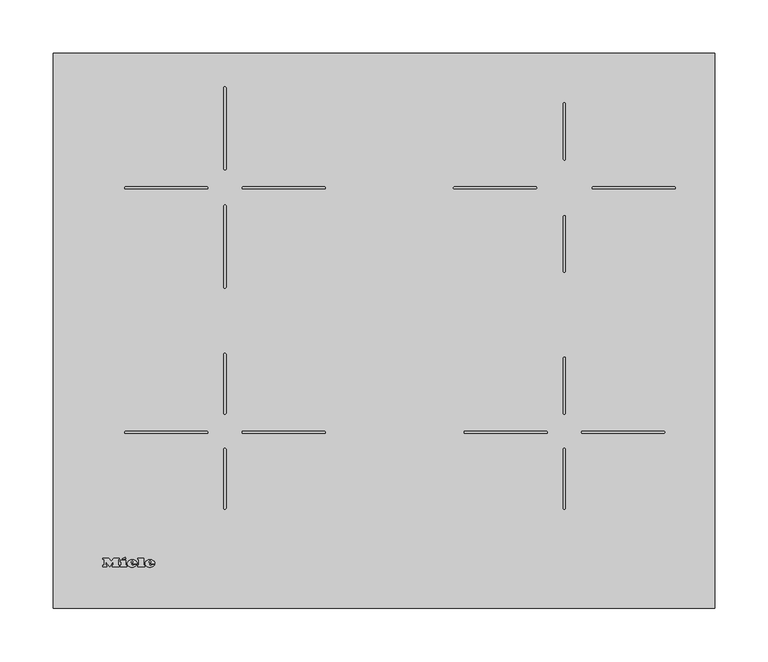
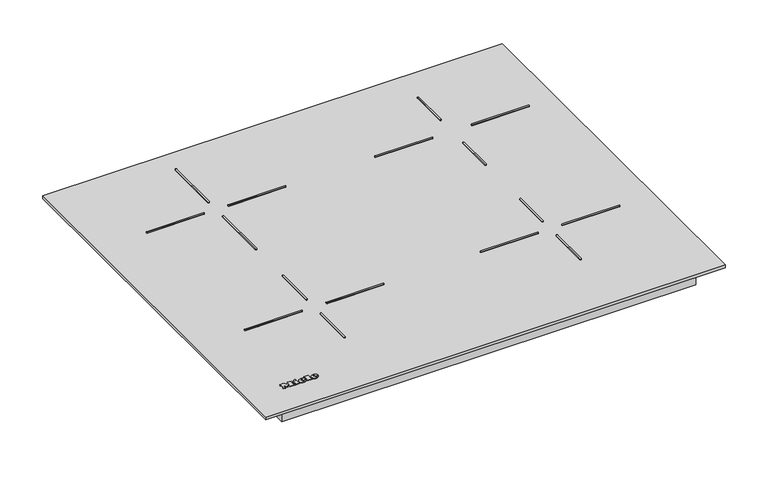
"""IFC4 building model written with IfcOpenShell, lengths in millimetres: proxy geometry, 12529440_KZ_KM7361FL : 26736170_KZ_12529440_KM7361FL."""

from ifc_helpers import new_model, si_unit, point, frame, frame_2d, origin, origin_with_axes, place, context, project, spatial, polyline, circle_curve, ellipse_curve, trimmed, segment, composite_curve, outline, extrude, source, transform, mapped, element, save
from ifc_brep_helpers import plane_surface, cylinder_surface, revolved_surface, extruded_surface, advanced_brep


def specialty_equipment_58978d6d(model_context):
    return source(origin(), model_context, "Body", "SolidModel", [
        advanced_brep(
        [(-219.911984, 41.066, 5.0000007), (-219.911984, 41.874, 5.0000007), (-214.559984, 41.874, 5.0000007), (-223.871984, 41.874, 5.0000007), (-221.671984, 39.17, 5.0000007), (-214.695984, 41.066, 5.0000007), (-217.111984, 41.066, 5.0000007), (-219.015984, 40.17, 5.0000007), (-219.911984, 42.898, 5.0000007), (-219.911984, 43.77, 5.0000007), (-218.543984, 43.77, 5.0000007), (-218.543984, 42.898, 5.0000007), (-219.911984, 41.066, 4.0000007), (-219.015984, 40.17, 4.0000007), (-217.111984, 41.066, 4.0000007), (-214.695984, 41.066, 4.0000007), (-221.671984, 39.17, 4.0000007), (-223.871984, 41.874, 4.0000007), (-214.559984, 41.874, 4.0000007), (-219.911984, 41.874, 4.0000007), (-219.911984, 42.898, 4.0000007), (-218.543984, 42.898, 4.0000007), (-218.543984, 43.77, 4.0000007), (-219.911984, 43.77, 4.0000007)],
        [
            (0, 1),
            (1, 2),
            (2, 3, ellipse_curve(frame((-219.215984, 41.874, 5.0000007), z_axis=(0.0, 0.0, 1.0), x_axis=(-1.0, 0.0, 0.0)), 4.656, 3.848)),
            (3, 4, circle_curve(frame((-220.7759404, 42.146, 5.0000007), z_axis=(0.0, 0.0, 1.0), x_axis=(0.0, -1.0, 0.0)), 3.1079688)),
            (4, 5, circle_curve(frame((-219.3091904, 44.258, 5.0000007), z_axis=(0.0, 0.0, 1.0), x_axis=(0.0, -1.0, 0.0)), 5.6098607)),
            (5, 6),
            (6, 7, circle_curve(frame((-218.6249252, 41.81, 5.0000007), z_axis=(0.0, 0.0, -1.0), x_axis=(0.0, -1.0, 0.0)), 1.6859795)),
            (7, 0, circle_curve(frame((-219.015984, 41.066, 5.0000007), z_axis=(0.0, 0.0, -1.0), x_axis=(0.0, -1.0, 0.0)), 0.896)),
            (8, 9),
            (9, 10, circle_curve(frame((-219.227984, 43.77, 5.0000007), z_axis=(0.0, 0.0, -1.0), x_axis=(0.0, -1.0, 0.0)), 0.684)),
            (10, 11),
            (11, 8),
            (12, 13, circle_curve(frame((-219.015984, 41.066, 4.0000007), z_axis=(0.0, 0.0, 1.0), x_axis=(0.0, -1.0, 0.0)), 0.896)),
            (13, 14, circle_curve(frame((-218.6249252, 41.81, 4.0000007), z_axis=(0.0, 0.0, 1.0), x_axis=(0.0, -1.0, 0.0)), 1.6859795)),
            (14, 15),
            (15, 16, circle_curve(frame((-219.3091904, 44.258, 4.0000007), z_axis=(0.0, 0.0, -1.0), x_axis=(0.0, -1.0, 0.0)), 5.6098607)),
            (16, 17, circle_curve(frame((-220.7759404, 42.146, 4.0000007), z_axis=(0.0, 0.0, -1.0), x_axis=(0.0, -1.0, 0.0)), 3.1079688)),
            (17, 18, ellipse_curve(frame((-219.215984, 41.874, 4.0000007), z_axis=(0.0, 0.0, -1.0), x_axis=(-1.0, 0.0, 0.0)), 4.656, 3.848)),
            (18, 19),
            (19, 12),
            (20, 21),
            (21, 22),
            (22, 23, circle_curve(frame((-219.227984, 43.77, 4.0000007), z_axis=(0.0, 0.0, 1.0), x_axis=(0.0, -1.0, 0.0)), 0.684)),
            (23, 20),
            (0, 12),
            (19, 1),
            (18, 2),
            (5, 15),
            (14, 6),
            (17, 3),
            (13, 7),
            (16, 4),
            (8, 20),
            (23, 9),
            (22, 10),
            (21, 11),
        ],
        [
            plane_surface(frame((-219.911984, 41.874, 5.0000007), z_axis=(0.0, 0.0, 1.0), x_axis=(0.0, 1.0, 0.0))),
            plane_surface(frame((-219.911984, 41.874, 4.0000007), z_axis=(0.0, 0.0, -1.0), x_axis=(0.0, -1.0, 0.0))),
            plane_surface(frame((-219.911984, 41.066, 5.0000007), z_axis=(1.0, 0.0, 0.0), x_axis=(0.0, 0.0, -1.0))),
            plane_surface(frame((-219.911984, 41.874, 5.0000007), z_axis=(0.0, -1.0, 0.0), x_axis=(0.0, 0.0, -1.0))),
            plane_surface(frame((-214.695984, 41.066, 5.0000007), z_axis=(0.0, 1.0, 0.0), x_axis=(0.0, 0.0, -1.0))),
            extruded_surface(trimmed(ellipse_curve(frame((-219.215984, 41.874, 3.0000007), z_axis=(0.0, 0.0, 1.0), x_axis=(-1.0, 0.0, 0.0)), 4.656, 3.848), [point((-214.559984, 41.874, 3.0000007))], [point((-223.871984, 41.874, 3.0000007))], True, "CARTESIAN"), (0.0, 0.0, 1.0), 1.0),
            revolved_surface(polyline([(-218.6249252, 40.1240205, 4.0000007), (-218.6249252, 40.1240205, 5.0000007)]), (-218.6249252, 41.81, 4.0000007), (0.0, 0.0, -1.0)),
            revolved_surface(polyline([(-219.015984, 40.17, 4.0000007), (-219.015984, 40.17, 5.0000007)]), (-219.015984, 41.066, 4.0000007), (0.0, 0.0, -1.0)),
            cylinder_surface(frame((-220.7759404, 42.146, 4.0000007), z_axis=(0.0, 0.0, 1.0), x_axis=(0.0, -1.0, 0.0)), 3.1079688),
            cylinder_surface(frame((-219.3091904, 44.258, 4.0000007), z_axis=(0.0, 0.0, 1.0), x_axis=(0.0, -1.0, 0.0)), 5.6098607),
            plane_surface(frame((-219.911984, 42.898, 5.0000007), z_axis=(1.0, 0.0, 0.0), x_axis=(0.0, 0.0, -1.0))),
            revolved_surface(polyline([(-219.227984, 43.086000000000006, 4.0000007), (-219.227984, 43.086000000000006, 5.0000007)]), (-219.227984, 43.77, 4.0000007), (0.0, 0.0, -1.0)),
            plane_surface(frame((-218.543984, 43.77, 5.0000007), z_axis=(-1.0, 0.0, 0.0), x_axis=(0.0, 0.0, -1.0))),
            plane_surface(frame((-218.543984, 42.898, 5.0000007), z_axis=(0.0, 1.0, 0.0), x_axis=(0.0, 0.0, -1.0))),
        ],
        [
            (0, [[1, 2, 3, 4, 5, 6, 7, 8], [9, 10, 11, 12]]),
            (1, [[13, 14, 15, 16, 17, 18, 19, 20], [21, 22, 23, 24]]),
            (2, [[-1, 25, -20, 26]]),
            (3, [[-2, -26, -19, 27]]),
            (4, [[-6, 28, -15, 29]]),
            (5, [[-3, -27, -18, 30]]),
            (6, [[-7, -29, -14, 31]]),
            (7, [[-8, -31, -13, -25]]),
            (8, [[-4, -30, -17, 32]]),
            (9, [[-5, -32, -16, -28]]),
            (10, [[-9, 33, -24, 34]]),
            (11, [[-10, -34, -23, 35]]),
            (12, [[-11, -35, -22, 36]]),
            (13, [[-12, -36, -21, -33]]),
        ],
    ),
        advanced_brep(
        [(-236.607984, 41.066, 5.0000007), (-236.607984, 41.874, 5.0000007), (-231.255984, 41.874, 5.0000007), (-240.567984, 41.874, 5.0000007), (-238.367984, 39.17, 5.0000007), (-231.391984, 41.066, 5.0000007), (-233.807984, 41.066, 5.0000007), (-235.711984, 40.17, 5.0000007), (-236.607984, 42.898, 5.0000007), (-236.607984, 43.77, 5.0000007), (-235.239984, 43.77, 5.0000007), (-235.239984, 42.898, 5.0000007), (-236.607984, 41.066, 4.0000007), (-235.711984, 40.17, 4.0000007), (-233.807984, 41.066, 4.0000007), (-231.391984, 41.066, 4.0000007), (-238.367984, 39.17, 4.0000007), (-240.567984, 41.874, 4.0000007), (-231.255984, 41.874, 4.0000007), (-236.607984, 41.874, 4.0000007), (-236.607984, 42.898, 4.0000007), (-235.239984, 42.898, 4.0000007), (-235.239984, 43.77, 4.0000007), (-236.607984, 43.77, 4.0000007)],
        [
            (0, 1),
            (1, 2),
            (2, 3, ellipse_curve(frame((-235.911984, 41.874, 5.0000007), z_axis=(0.0, 0.0, 1.0), x_axis=(-1.0, 0.0, 0.0)), 4.656, 3.848)),
            (3, 4, circle_curve(frame((-237.4719404, 42.146, 5.0000007), z_axis=(0.0, 0.0, 1.0), x_axis=(0.0, -1.0, 0.0)), 3.1079688)),
            (4, 5, circle_curve(frame((-236.0051904, 44.258, 5.0000007), z_axis=(0.0, 0.0, 1.0), x_axis=(0.0, -1.0, 0.0)), 5.6098607)),
            (5, 6),
            (6, 7, circle_curve(frame((-235.3209252, 41.81, 5.0000007), z_axis=(0.0, 0.0, -1.0), x_axis=(0.0, -1.0, 0.0)), 1.6859795)),
            (7, 0, circle_curve(frame((-235.711984, 41.066, 5.0000007), z_axis=(0.0, 0.0, -1.0), x_axis=(0.0, -1.0, 0.0)), 0.896)),
            (8, 9),
            (9, 10, circle_curve(frame((-235.923984, 43.77, 5.0000007), z_axis=(0.0, 0.0, -1.0), x_axis=(0.0, -1.0, 0.0)), 0.684)),
            (10, 11),
            (11, 8),
            (12, 13, circle_curve(frame((-235.711984, 41.066, 4.0000007), z_axis=(0.0, 0.0, 1.0), x_axis=(0.0, -1.0, 0.0)), 0.896)),
            (13, 14, circle_curve(frame((-235.3209252, 41.81, 4.0000007), z_axis=(0.0, 0.0, 1.0), x_axis=(0.0, -1.0, 0.0)), 1.6859795)),
            (14, 15),
            (15, 16, circle_curve(frame((-236.0051904, 44.258, 4.0000007), z_axis=(0.0, 0.0, -1.0), x_axis=(0.0, -1.0, 0.0)), 5.6098607)),
            (16, 17, circle_curve(frame((-237.4719404, 42.146, 4.0000007), z_axis=(0.0, 0.0, -1.0), x_axis=(0.0, -1.0, 0.0)), 3.1079688)),
            (17, 18, ellipse_curve(frame((-235.911984, 41.874, 4.0000007), z_axis=(0.0, 0.0, -1.0), x_axis=(-1.0, 0.0, 0.0)), 4.656, 3.848)),
            (18, 19),
            (19, 12),
            (20, 21),
            (21, 22),
            (22, 23, circle_curve(frame((-235.923984, 43.77, 4.0000007), z_axis=(0.0, 0.0, 1.0), x_axis=(0.0, -1.0, 0.0)), 0.684)),
            (23, 20),
            (0, 12),
            (19, 1),
            (18, 2),
            (5, 15),
            (14, 6),
            (17, 3),
            (13, 7),
            (16, 4),
            (8, 20),
            (23, 9),
            (22, 10),
            (21, 11),
        ],
        [
            plane_surface(frame((-236.607984, 41.874, 5.0000007), z_axis=(0.0, 0.0, 1.0), x_axis=(0.0, 1.0, 0.0))),
            plane_surface(frame((-236.607984, 41.874, 4.0000007), z_axis=(0.0, 0.0, -1.0), x_axis=(0.0, -1.0, 0.0))),
            plane_surface(frame((-236.607984, 41.066, 5.0000007), z_axis=(1.0, 0.0, 0.0), x_axis=(0.0, 0.0, -1.0))),
            plane_surface(frame((-236.607984, 41.874, 5.0000007), z_axis=(0.0, -1.0, 0.0), x_axis=(0.0, 0.0, -1.0))),
            plane_surface(frame((-231.391984, 41.066, 5.0000007), z_axis=(0.0, 1.0, 0.0), x_axis=(0.0, 0.0, -1.0))),
            extruded_surface(trimmed(ellipse_curve(frame((-235.911984, 41.874, 3.0000007), z_axis=(0.0, 0.0, 1.0), x_axis=(-1.0, 0.0, 0.0)), 4.656, 3.848), [point((-231.255984, 41.874, 3.0000007))], [point((-240.567984, 41.874, 3.0000007))], True, "CARTESIAN"), (0.0, 0.0, 1.0), 1.0),
            revolved_surface(polyline([(-235.3209252, 40.1240205, 4.0000007), (-235.3209252, 40.1240205, 5.0000007)]), (-235.3209252, 41.81, 4.0000007), (0.0, 0.0, -1.0)),
            revolved_surface(polyline([(-235.711984, 40.17, 4.0000007), (-235.711984, 40.17, 5.0000007)]), (-235.711984, 41.066, 4.0000007), (0.0, 0.0, -1.0)),
            cylinder_surface(frame((-237.4719404, 42.146, 4.0000007), z_axis=(0.0, 0.0, 1.0), x_axis=(0.0, -1.0, 0.0)), 3.1079688),
            cylinder_surface(frame((-236.0051904, 44.258, 4.0000007), z_axis=(0.0, 0.0, 1.0), x_axis=(0.0, -1.0, 0.0)), 5.6098607),
            plane_surface(frame((-236.607984, 42.898, 5.0000007), z_axis=(1.0, 0.0, 0.0), x_axis=(0.0, 0.0, -1.0))),
            revolved_surface(polyline([(-235.923984, 43.086000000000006, 4.0000007), (-235.923984, 43.086000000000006, 5.0000007)]), (-235.923984, 43.77, 4.0000007), (0.0, 0.0, -1.0)),
            plane_surface(frame((-235.239984, 43.77, 5.0000007), z_axis=(-1.0, 0.0, 0.0), x_axis=(0.0, 0.0, -1.0))),
            plane_surface(frame((-235.239984, 42.898, 5.0000007), z_axis=(0.0, 1.0, 0.0), x_axis=(0.0, 0.0, -1.0))),
        ],
        [
            (0, [[1, 2, 3, 4, 5, 6, 7, 8], [9, 10, 11, 12]]),
            (1, [[13, 14, 15, 16, 17, 18, 19, 20], [21, 22, 23, 24]]),
            (2, [[-1, 25, -20, 26]]),
            (3, [[-2, -26, -19, 27]]),
            (4, [[-6, 28, -15, 29]]),
            (5, [[-3, -27, -18, 30]]),
            (6, [[-7, -29, -14, 31]]),
            (7, [[-8, -31, -13, -25]]),
            (8, [[-4, -30, -17, 32]]),
            (9, [[-5, -32, -16, -28]]),
            (10, [[-9, 33, -24, 34]]),
            (11, [[-10, -34, -23, 35]]),
            (12, [[-11, -35, -22, 36]]),
            (13, [[-12, -36, -21, -33]]),
        ],
    ),
        extrude(outline(polyline([(-245.351984, 46.698), (-242.631984, 47.962), (-242.031984, 46.666), (-244.743984, 45.402), (-245.351984, 46.698)])), frame((0.0, 0.0, 4.0000007), z_axis=(0.0, 0.0, 1.0), x_axis=(1.0, 0.0, 0.0)), (0.0, 0.0, 1.0), 1.0),
        extrude(outline(polyline([(-247.327984, 45.226), (-241.943984, 45.226), (-241.943984, 40.514), (-241.015984, 40.514), (-241.015984, 39.17), (-247.327984, 39.17), (-247.327984, 40.514), (-246.375984, 40.514), (-246.375984, 43.794), (-247.327984, 43.794), (-247.327984, 45.226)])), frame((0.0, 0.0, 4.0000007), z_axis=(0.0, 0.0, 1.0), x_axis=(1.0, 0.0, 0.0)), (0.0, 0.0, 1.0), 1.0),
        extrude(outline(polyline([(-230.807984, 45.866), (-230.807984, 47.17), (-225.303984, 47.17), (-225.303984, 40.514), (-224.319984, 40.514), (-224.319984, 39.17), (-230.807984, 39.17), (-230.807984, 40.514), (-229.847984, 40.514), (-229.847984, 45.866), (-230.807984, 45.866)])), frame((0.0, 0.0, 4.0000007), z_axis=(0.0, 0.0, 1.0), x_axis=(1.0, 0.0, 0.0)), (0.0, 0.0, 1.0), 1.0),
        extrude(outline(polyline([(-263.271984, 45.866), (-263.271984, 47.17), (-257.695984, 47.17), (-255.351984, 44.17), (-253.015984, 47.17), (-248.143984, 47.17), (-248.143984, 45.866), (-249.159984, 45.866), (-249.159984, 40.514), (-248.143984, 40.514), (-248.143984, 39.17), (-254.527984, 39.17), (-254.527984, 40.514), (-253.543984, 40.514), (-253.543984, 43.9852223), (-257.135984, 39.17), (-260.711984, 43.9171247), (-260.711984, 40.514), (-259.751984, 40.514), (-259.751984, 39.17), (-263.271984, 39.17), (-263.271984, 40.514), (-262.303984, 40.514), (-262.303984, 45.866), (-263.271984, 45.866)])), frame((0.0, 0.0, 4.0000007), z_axis=(0.0, 0.0, 1.0), x_axis=(1.0, 0.0, 0.0)), (0.0, 0.0, 1.0), 1.0),
        extrude(outline(composite_curve([segment(trimmed(circle_curve(frame_2d((-56.0, 394.0)), 1.0), [point((-56.0, 395.0))], [point((-56.0, 393.0))], False, "CARTESIAN"), True, "CONTINUOUS"), segment(polyline([(-56.0, 393.0), (-132.0, 393.0)]), True, "CONTINUOUS"), segment(trimmed(circle_curve(frame_2d((-132.0, 394.0)), 1.0), [point((-132.0, 393.0))], [point((-132.0, 395.0))], False, "CARTESIAN"), True, "CONTINUOUS"), segment(polyline([(-132.0, 395.0), (-56.0, 395.0)]), True, "CONTINUOUS")], self_intersect=False)), frame((0.0, 0.0, 4.0000007), z_axis=(0.0, 0.0, 1.0), x_axis=(1.0, 0.0, 0.0)), (0.0, 0.0, 1.0), 1.0),
        extrude(outline(composite_curve([segment(polyline([(-242.0, 395.0), (-166.0, 395.0)]), True, "CONTINUOUS"), segment(trimmed(circle_curve(frame_2d((-166.0, 394.0)), 1.0), [point((-166.0, 395.0))], [point((-166.0, 393.0))], False, "CARTESIAN"), True, "CONTINUOUS"), segment(polyline([(-166.0, 393.0), (-242.0, 393.0)]), True, "CONTINUOUS"), segment(trimmed(circle_curve(frame_2d((-242.0, 394.0)), 1.0), [point((-242.0, 393.0))], [point((-242.0, 395.0))], False, "CARTESIAN"), True, "CONTINUOUS")], self_intersect=False)), frame((0.0, 0.0, 4.0000007), z_axis=(0.0, 0.0, 1.0), x_axis=(1.0, 0.0, 0.0)), (0.0, 0.0, 1.0), 1.0),
        extrude(outline(composite_curve([segment(trimmed(circle_curve(frame_2d((-149.0, 487.75)), 1.0), [point((-150.0, 487.75))], [point((-148.0, 487.75))], False, "CARTESIAN"), True, "CONTINUOUS"), segment(polyline([(-148.0, 487.75), (-148.0, 411.75)]), True, "CONTINUOUS"), segment(trimmed(circle_curve(frame_2d((-149.0, 411.75)), 1.0), [point((-148.0, 411.75))], [point((-150.0, 411.75))], False, "CARTESIAN"), True, "CONTINUOUS"), segment(polyline([(-150.0, 411.75), (-150.0, 487.75)]), True, "CONTINUOUS")], self_intersect=False)), frame((0.0, 0.0, 4.0000007), z_axis=(0.0, 0.0, 1.0), x_axis=(1.0, 0.0, 0.0)), (0.0, 0.0, 1.0), 1.0),
        extrude(outline(composite_curve([segment(polyline([(-150.0, 301.0), (-150.0, 377.0)]), True, "CONTINUOUS"), segment(trimmed(circle_curve(frame_2d((-149.0, 377.0)), 1.0), [point((-150.0, 377.0))], [point((-148.0, 377.0))], False, "CARTESIAN"), True, "CONTINUOUS"), segment(polyline([(-148.0, 377.0), (-148.0, 301.0)]), True, "CONTINUOUS"), segment(trimmed(circle_curve(frame_2d((-149.0, 301.0)), 1.0), [point((-148.0, 301.0))], [point((-150.0, 301.0))], False, "CARTESIAN"), True, "CONTINUOUS")], self_intersect=False)), frame((0.0, 0.0, 4.0000007), z_axis=(0.0, 0.0, 1.0), x_axis=(1.0, 0.0, 0.0)), (0.0, 0.0, 1.0), 1.0),
        extrude(outline(composite_curve([segment(polyline([(66.0, 395.0), (142.0, 395.0)]), True, "CONTINUOUS"), segment(trimmed(circle_curve(frame_2d((142.0, 394.0)), 1.0), [point((142.0, 395.0))], [point((142.0, 393.0))], False, "CARTESIAN"), True, "CONTINUOUS"), segment(polyline([(142.0, 393.0), (66.0, 393.0)]), True, "CONTINUOUS"), segment(trimmed(circle_curve(frame_2d((66.0, 394.0)), 1.0), [point((66.0, 393.0))], [point((66.0, 395.0))], False, "CARTESIAN"), True, "CONTINUOUS")], self_intersect=False)), frame((0.0, 0.0, 4.0000007), z_axis=(0.0, 0.0, 1.0), x_axis=(1.0, 0.0, 0.0)), (0.0, 0.0, 1.0), 1.0),
        extrude(outline(composite_curve([segment(trimmed(circle_curve(frame_2d((272.0, 394.0)), 1.0), [point((272.0, 395.0))], [point((272.0, 393.0))], False, "CARTESIAN"), True, "CONTINUOUS"), segment(polyline([(272.0, 393.0), (196.0, 393.0)]), True, "CONTINUOUS"), segment(trimmed(circle_curve(frame_2d((196.0, 394.0)), 1.0), [point((196.0, 393.0))], [point((196.0, 395.0))], False, "CARTESIAN"), True, "CONTINUOUS"), segment(polyline([(196.0, 395.0), (272.0, 395.0)]), True, "CONTINUOUS")], self_intersect=False)), frame((0.0, 0.0, 4.0000007), z_axis=(0.0, 0.0, 1.0), x_axis=(1.0, 0.0, 0.0)), (0.0, 0.0, 1.0), 1.0),
        extrude(outline(composite_curve([segment(polyline([(170.0, 472.75), (170.0, 421.0)]), True, "CONTINUOUS"), segment(trimmed(circle_curve(frame_2d((169.0, 421.0)), 1.0), [point((170.0, 421.0))], [point((168.0, 421.0))], False, "CARTESIAN"), True, "CONTINUOUS"), segment(polyline([(168.0, 421.0), (168.0, 472.75)]), True, "CONTINUOUS"), segment(trimmed(circle_curve(frame_2d((169.0, 472.75)), 1.0), [point((168.0, 472.75))], [point((170.0, 472.75))], False, "CARTESIAN"), True, "CONTINUOUS")], self_intersect=False)), frame((0.0, 0.0, 4.0000007), z_axis=(0.0, 0.0, 1.0), x_axis=(1.0, 0.0, 0.0)), (0.0, 0.0, 1.0), 1.0),
        extrude(outline(composite_curve([segment(trimmed(circle_curve(frame_2d((169.0, 316.0)), 1.0), [point((170.0, 316.0))], [point((168.0, 316.0))], False, "CARTESIAN"), True, "CONTINUOUS"), segment(polyline([(168.0, 316.0), (168.0, 367.0)]), True, "CONTINUOUS"), segment(trimmed(circle_curve(frame_2d((169.0, 367.0)), 1.0), [point((168.0, 367.0))], [point((170.0, 367.0))], False, "CARTESIAN"), True, "CONTINUOUS"), segment(polyline([(170.0, 367.0), (170.0, 316.0)]), True, "CONTINUOUS")], self_intersect=False)), frame((0.0, 0.0, 4.0000007), z_axis=(0.0, 0.0, 1.0), x_axis=(1.0, 0.0, 0.0)), (0.0, 0.0, 1.0), 1.0),
        extrude(outline(composite_curve([segment(polyline([(-56.0, 164.0), (-132.0, 164.0)]), True, "CONTINUOUS"), segment(trimmed(circle_curve(frame_2d((-132.0, 165.0)), 1.0), [point((-132.0, 164.0))], [point((-132.0, 166.0))], False, "CARTESIAN"), True, "CONTINUOUS"), segment(polyline([(-132.0, 166.0), (-56.0, 166.0)]), True, "CONTINUOUS"), segment(trimmed(circle_curve(frame_2d((-56.0, 165.0)), 1.0), [point((-56.0, 166.0))], [point((-56.0, 164.0))], False, "CARTESIAN"), True, "CONTINUOUS")], self_intersect=False)), frame((0.0, 0.0, 4.0000007), z_axis=(0.0, 0.0, 1.0), x_axis=(1.0, 0.0, 0.0)), (0.0, 0.0, 1.0), 1.0),
        extrude(outline(composite_curve([segment(trimmed(circle_curve(frame_2d((-242.0, 165.0)), 1.0), [point((-242.0, 164.0))], [point((-242.0, 166.0))], False, "CARTESIAN"), True, "CONTINUOUS"), segment(polyline([(-242.0, 166.0), (-166.0, 166.0)]), True, "CONTINUOUS"), segment(trimmed(circle_curve(frame_2d((-166.0, 165.0)), 1.0), [point((-166.0, 166.0))], [point((-166.0, 164.0))], False, "CARTESIAN"), True, "CONTINUOUS"), segment(polyline([(-166.0, 164.0), (-242.0, 164.0)]), True, "CONTINUOUS")], self_intersect=False)), frame((0.0, 0.0, 4.0000007), z_axis=(0.0, 0.0, 1.0), x_axis=(1.0, 0.0, 0.0)), (0.0, 0.0, 1.0), 1.0),
        extrude(outline(composite_curve([segment(polyline([(-150.0, 94.0), (-150.0, 149.0)]), True, "CONTINUOUS"), segment(trimmed(circle_curve(frame_2d((-149.0, 149.0)), 1.0), [point((-150.0, 149.0))], [point((-148.0, 149.0))], False, "CARTESIAN"), True, "CONTINUOUS"), segment(polyline([(-148.0, 149.0), (-148.0, 94.0)]), True, "CONTINUOUS"), segment(trimmed(circle_curve(frame_2d((-149.0, 94.0)), 1.0), [point((-148.0, 94.0))], [point((-150.0, 94.0))], False, "CARTESIAN"), True, "CONTINUOUS")], self_intersect=False)), frame((0.0, 0.0, 4.0000007), z_axis=(0.0, 0.0, 1.0), x_axis=(1.0, 0.0, 0.0)), (0.0, 0.0, 1.0), 1.0),
        extrude(outline(composite_curve([segment(trimmed(circle_curve(frame_2d((-149.0, 238.0)), 1.0), [point((-150.0, 238.0))], [point((-148.0, 238.0))], False, "CARTESIAN"), True, "CONTINUOUS"), segment(polyline([(-148.0, 238.0), (-148.0, 183.0)]), True, "CONTINUOUS"), segment(trimmed(circle_curve(frame_2d((-149.0, 183.0)), 1.0), [point((-148.0, 183.0))], [point((-150.0, 183.0))], False, "CARTESIAN"), True, "CONTINUOUS"), segment(polyline([(-150.0, 183.0), (-150.0, 238.0)]), True, "CONTINUOUS")], self_intersect=False)), frame((0.0, 0.0, 4.0000007), z_axis=(0.0, 0.0, 1.0), x_axis=(1.0, 0.0, 0.0)), (0.0, 0.0, 1.0), 1.0),
        extrude(outline(composite_curve([segment(trimmed(circle_curve(frame_2d((76.0, 165.0)), 1.0), [point((76.0, 164.0))], [point((76.0, 166.0))], False, "CARTESIAN"), True, "CONTINUOUS"), segment(polyline([(76.0, 166.0), (152.0, 166.0)]), True, "CONTINUOUS"), segment(trimmed(circle_curve(frame_2d((152.0, 165.0)), 1.0), [point((152.0, 166.0))], [point((152.0, 164.0))], False, "CARTESIAN"), True, "CONTINUOUS"), segment(polyline([(152.0, 164.0), (76.0, 164.0)]), True, "CONTINUOUS")], self_intersect=False)), frame((0.0, 0.0, 4.0000007), z_axis=(0.0, 0.0, 1.0), x_axis=(1.0, 0.0, 0.0)), (0.0, 0.0, 1.0), 1.0),
        extrude(outline(composite_curve([segment(polyline([(262.0, 164.0), (186.0, 164.0)]), True, "CONTINUOUS"), segment(trimmed(circle_curve(frame_2d((186.0, 165.0)), 1.0), [point((186.0, 164.0))], [point((186.0, 166.0))], False, "CARTESIAN"), True, "CONTINUOUS"), segment(polyline([(186.0, 166.0), (262.0, 166.0)]), True, "CONTINUOUS"), segment(trimmed(circle_curve(frame_2d((262.0, 165.0)), 1.0), [point((262.0, 166.0))], [point((262.0, 164.0))], False, "CARTESIAN"), True, "CONTINUOUS")], self_intersect=False)), frame((0.0, 0.0, 4.0000007), z_axis=(0.0, 0.0, 1.0), x_axis=(1.0, 0.0, 0.0)), (0.0, 0.0, 1.0), 1.0),
        extrude(outline(composite_curve([segment(trimmed(circle_curve(frame_2d((169.0, 94.0)), 1.0), [point((170.0, 94.0))], [point((168.0, 94.0))], False, "CARTESIAN"), True, "CONTINUOUS"), segment(polyline([(168.0, 94.0), (168.0, 149.0)]), True, "CONTINUOUS"), segment(trimmed(circle_curve(frame_2d((169.0, 149.0)), 1.0), [point((168.0, 149.0))], [point((170.0, 149.0))], False, "CARTESIAN"), True, "CONTINUOUS"), segment(polyline([(170.0, 149.0), (170.0, 94.0)]), True, "CONTINUOUS")], self_intersect=False)), frame((0.0, 0.0, 4.0000007), z_axis=(0.0, 0.0, 1.0), x_axis=(1.0, 0.0, 0.0)), (0.0, 0.0, 1.0), 1.0),
        extrude(outline(composite_curve([segment(polyline([(170.0, 234.3524804), (170.0, 183.0)]), True, "CONTINUOUS"), segment(trimmed(circle_curve(frame_2d((169.0, 183.0)), 1.0), [point((170.0, 183.0))], [point((168.0, 183.0))], False, "CARTESIAN"), True, "CONTINUOUS"), segment(polyline([(168.0, 183.0), (168.0, 234.3524804)]), True, "CONTINUOUS"), segment(trimmed(circle_curve(frame_2d((169.0, 234.3524804)), 1.0), [point((168.0, 234.3524804))], [point((170.0, 234.3524804))], False, "CARTESIAN"), True, "CONTINUOUS")], self_intersect=False)), frame((0.0, 0.0, 4.0000007), z_axis=(0.0, 0.0, 1.0), x_axis=(1.0, 0.0, 0.0)), (0.0, 0.0, 1.0), 1.0),
        extrude(outline(polyline([(226.7938197, 480.0), (226.7938197, 362.7202614), (229.0, 362.7202614), (229.0, 76.0), (-64.0, 76.0), (-64.0, 480.0), (226.7938197, 480.0)])), frame((0.0, 0.0, -49.1723575), z_axis=(0.0, 0.0, 1.0), x_axis=(1.0, 0.0, 0.0)), (0.0, 0.0, 1.0), 26.1723575),
        extrude(outline(polyline([(279.0, 504.0), (279.0, 16.0), (-279.0, 16.0), (-279.0, 504.0), (279.0, 504.0)])), frame((0.0, 0.0, -23.0), z_axis=(0.0, 0.0, 1.0), x_axis=(1.0, 0.0, 0.0)), (0.0, 0.0, 1.0), 23.0),
        extrude(outline(polyline([(309.75, 520.0), (309.75, 0.0), (-309.75, 0.0), (-309.75, 520.0), (309.75, 520.0)])), origin_with_axes(), (0.0, 0.0, 1.0), 4.0000007),
        extrude(outline(polyline([(229.6227397, 383.1708126), (237.0, 383.1708126), (237.0, 381.9151088), (230.8784436, 381.9151088), (230.8784436, 378.6188861), (236.529111, 378.6188861), (236.529111, 377.3631822), (230.8784436, 377.3631822), (230.8784436, 374.3808855), (236.843037, 374.3808855), (236.843037, 373.1251816), (229.6227397, 373.1251816), (229.6227397, 383.1708126)])), frame((0.0, 0.0, -55.9814925), z_axis=(0.0, 0.0, 1.0), x_axis=(1.0, 0.0, 0.0)), (0.0, 0.0, 1.0), 1.0),
        extrude(outline(polyline([(238.8835558, 383.1708126), (245.1620752, 383.1708126), (245.1620752, 381.9151088), (240.1392597, 381.9151088), (240.1392597, 373.1251816), (238.8835558, 373.1251816), (238.8835558, 383.1708126)])), frame((0.0, 0.0, -55.9814925), z_axis=(0.0, 0.0, 1.0), x_axis=(1.0, 0.0, 0.0)), (0.0, 0.0, 1.0), 1.0),
        advanced_brep(
        [(214.0, 378.1708126, -42.9814925), (214.0, 378.1708126, -26.9814925), (228.7476293, 378.1708126, -42.9814925), (244.7476293, 378.1708126, -26.9814925), (228.7476293, 378.1708126, -54.9814925), (244.7476293, 378.1708126, -54.9814925)],
        [
            (0, 1, circle_curve(frame((214.0, 378.1708126, -34.9814925), z_axis=(-1.0, 0.0, 0.0), x_axis=(0.0, 0.0, 1.0)), 8.0)),
            (1, 0, circle_curve(frame((214.0, 378.1708126, -34.9814925), z_axis=(-1.0, 0.0, 0.0), x_axis=(0.0, 0.0, 1.0)), 8.0)),
            (0, 2),
            (2, 3, ellipse_curve(frame((236.7476293, 378.1708126, -34.9814925), z_axis=(-0.7071067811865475, 0.0, 0.7071067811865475), x_axis=(-0.7071067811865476, 0.0, -0.7071067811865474)), 11.3137085, 8.0)),
            (3, 1),
            (3, 2, ellipse_curve(frame((236.7476293, 378.1708126, -34.9814925), z_axis=(-0.7071067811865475, 0.0, 0.7071067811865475), x_axis=(-0.7071067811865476, 0.0, -0.7071067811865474)), 11.3137085, 8.0)),
            (4, 5, circle_curve(frame((236.7476293, 378.1708126, -54.9814925), z_axis=(0.0, 0.0, -1.0), x_axis=(1.0, 0.0, 0.0)), 8.0)),
            (5, 4, circle_curve(frame((236.7476293, 378.1708126, -54.9814925), z_axis=(0.0, 0.0, -1.0), x_axis=(1.0, 0.0, 0.0)), 8.0)),
            (2, 4),
            (5, 3),
        ],
        [
            plane_surface(frame((214.0, 0.0, -34.9814925), z_axis=(-1.0, 0.0, 0.0), x_axis=(0.0, -1.0, 0.0))),
            cylinder_surface(frame((214.0, 378.1708126, -34.9814925), z_axis=(-1.0, 0.0, 0.0), x_axis=(0.0, 0.0, 1.0)), 8.0),
            plane_surface(frame((236.7476293, 0.0, -54.9814925), z_axis=(0.0, 0.0, -1.0), x_axis=(0.0, -1.0, 0.0))),
            cylinder_surface(frame((236.7476293, 378.1708126, -34.9814925), z_axis=(0.0, 0.0, 1.0), x_axis=(1.0, 0.0, 0.0)), 8.0),
        ],
        [
            (0, [[1, 2]]),
            (1, [[-1, 3, 4, 5]]),
            (1, [[-2, -5, 6, -3]]),
            (2, [[7, 8]]),
            (3, [[-4, 9, -8, 10]]),
            (3, [[-6, -10, -7, -9]]),
        ],
    ),
    ])


if __name__ == "__main__":
    model = new_model("IFC4")
    model_context = context("Model", 3, world=origin())
    ifc_project = project(units=[si_unit("LENGTHUNIT", "METRE", prefix="MILLI")], contexts=[model_context])
    site = spatial("IfcSite", under=ifc_project)
    building = spatial("IfcBuilding", under=site)
    placement = place(None, origin())
    specialty_equipment_shape = specialty_equipment_58978d6d(model_context)
    element("IfcBuildingElementProxy", 1, Name="12529440_KZ_KM7361FL : 26736170_KZ_12529440_KM7361FL", ObjectType="12529440_KZ_KM7361FL : 26736170_KZ_12529440_KM7361FL", at=placement, inside=building, context=model_context, shape_type="MappedRepresentation", body=[
        mapped(specialty_equipment_shape, transform((0.0, 0.0, 0.0), x_axis=(1.0, 0.0, 0.0), y_axis=(0.0, 1.0, 0.0), z_axis=(0.0, 0.0, 1.0))),
    ])
    save(model, "model.ifc")
